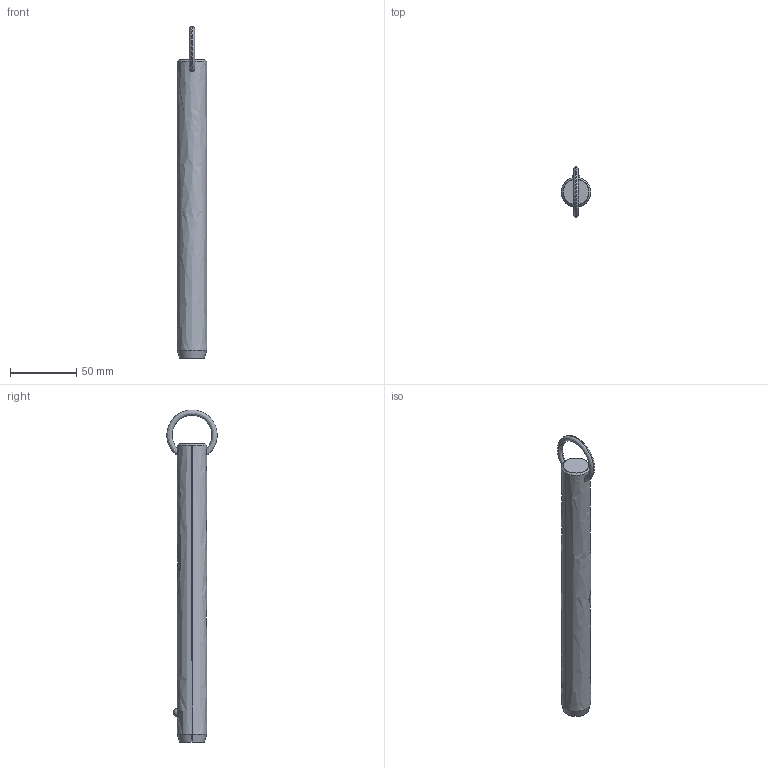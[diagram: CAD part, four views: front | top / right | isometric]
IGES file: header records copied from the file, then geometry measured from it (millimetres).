
Start section: SolidWorks IGES file using analytic representation for surfaces
Global section: file name: C:\Users\liam_\OneDrive\Documents\WORK\Work for WixRoyd\Job Files\J-00019 - Matt Davis CAD Checking\04. CAD Drawings\automotion20190605\P1250.2_v2\P1250.2_v2_20190729_IGES\P1250.087-740.igs; native system: SolidWorks 2017; preprocessor: SolidWorks 2017; author: liam_; date: 190730.173020; units: millimetre
Bounding box: 22.2 x 38.1 x 251.49 mm (x, y, z)
Surface area: 17412.7 mm2 (no closed solid volume)
Topology: 0 solids, 0 shells, 12 faces, 302 edges, 300 vertices
Faces by surface type: revolution 8, bspline 4
